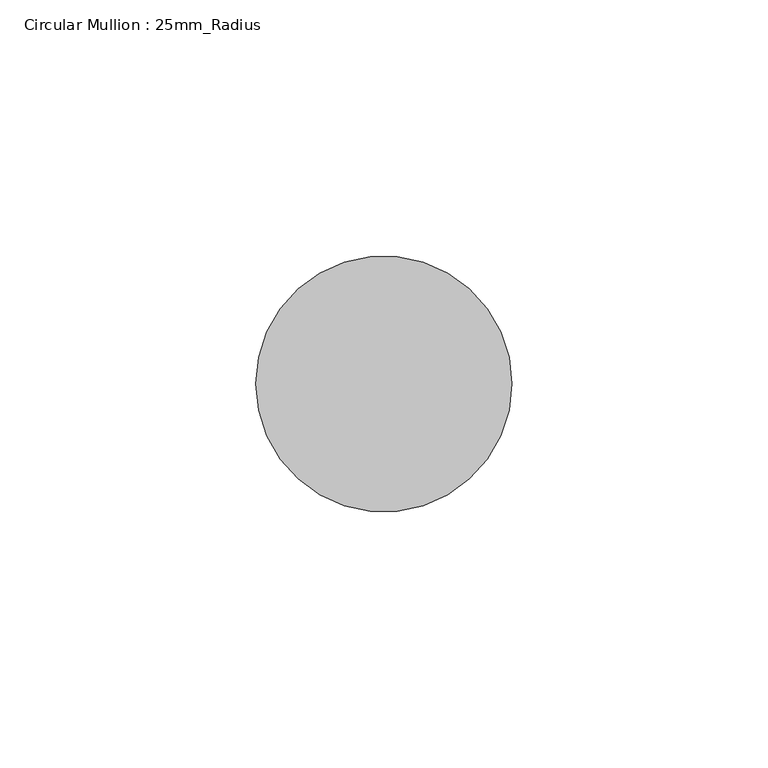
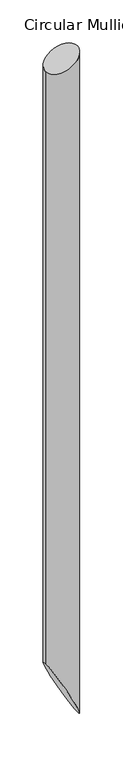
"""IFC4 building model written with IfcOpenShell, lengths in millimetres: member geometry, Circular Mullion : 25mm_Radius."""

from ifc_helpers import new_model, si_unit, frame, origin, place, context, project, spatial, ellipse_curve, source, transform, mapped, element, save
from ifc_brep_helpers import plane_surface, cylinder_surface, advanced_brep


def circular_mullion_25mm_radius_75a18c0d(model_context):
    return source(origin(), model_context, "Body", "AdvancedBrep", [
        advanced_brep(
        [(-50.0, 0.0, -25.6324853), (0.0, 0.0, 0.0), (0.0, 0.0, -1108.484736), (-50.0, 0.0, -1010.9522507)],
        [
            (0, 1, ellipse_curve(frame((-25.0, 0.0, -12.8162427), z_axis=(0.45619629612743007, 0.0, -0.8898791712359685), x_axis=(0.8898791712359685, 0.0, 0.45619629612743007)), 28.0937017, 25.0)),
            (1, 2),
            (2, 3, ellipse_curve(frame((-25.0, 0.0, -1059.7184934), z_axis=(0.8898791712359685, 0.0, 0.4561962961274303), x_axis=(-0.45619629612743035, 0.0, 0.8898791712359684)), 54.800971, 25.0)),
            (3, 0),
            (1, 0, ellipse_curve(frame((-25.0, 0.0, -12.8162427), z_axis=(0.45619629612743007, 0.0, -0.8898791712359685), x_axis=(0.8898791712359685, 0.0, 0.45619629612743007)), 28.0937017, 25.0)),
            (3, 2, ellipse_curve(frame((-25.0, 0.0, -1059.7184934), z_axis=(0.8898791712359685, 0.0, 0.4561962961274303), x_axis=(-0.45619629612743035, 0.0, 0.8898791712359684)), 54.800971, 25.0)),
        ],
        [
            cylinder_surface(frame((-25.0, 0.0, 0.0), z_axis=(0.0, 0.0, 1.0), x_axis=(1.0, 0.0, 0.0)), 25.0),
            plane_surface(frame((0.0, -304.8, 0.0), z_axis=(-0.45619629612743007, 0.0, 0.8898791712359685), x_axis=(-0.8898791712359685, 0.0, -0.45619629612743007))),
            plane_surface(frame((0.0, -304.8, -1108.484736), z_axis=(-0.8898791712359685, 0.0, -0.4561962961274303), x_axis=(-0.4561962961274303, 0.0, 0.8898791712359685))),
        ],
        [
            (0, [[1, 2, 3, 4]]),
            (0, [[5, -4, 6, -2]]),
            (1, [[-1, -5]]),
            (2, [[-6, -3]]),
        ],
    ),
    ])


if __name__ == "__main__":
    model = new_model("IFC4")
    model_context = context("Model", 3, world=origin())
    ifc_project = project(units=[si_unit("LENGTHUNIT", "METRE", prefix="MILLI")], contexts=[model_context])
    site = spatial("IfcSite", under=ifc_project)
    building = spatial("IfcBuilding", under=site)
    placement = place(None, origin())
    circular_mullion_25mm_radius_shape = circular_mullion_25mm_radius_75a18c0d(model_context)
    element("IfcMember", 1, ObjectType="Circular Mullion : 25mm_Radius", at=placement, inside=building, context=model_context, shape_type="MappedRepresentation", body=[
        mapped(circular_mullion_25mm_radius_shape, transform((0.0, 0.0, 0.0), x_axis=(1.0, 0.0, 0.0), y_axis=(0.0, 1.0, 0.0), z_axis=(0.0, 0.0, 1.0))),
    ])
    save(model, "model.ifc")
